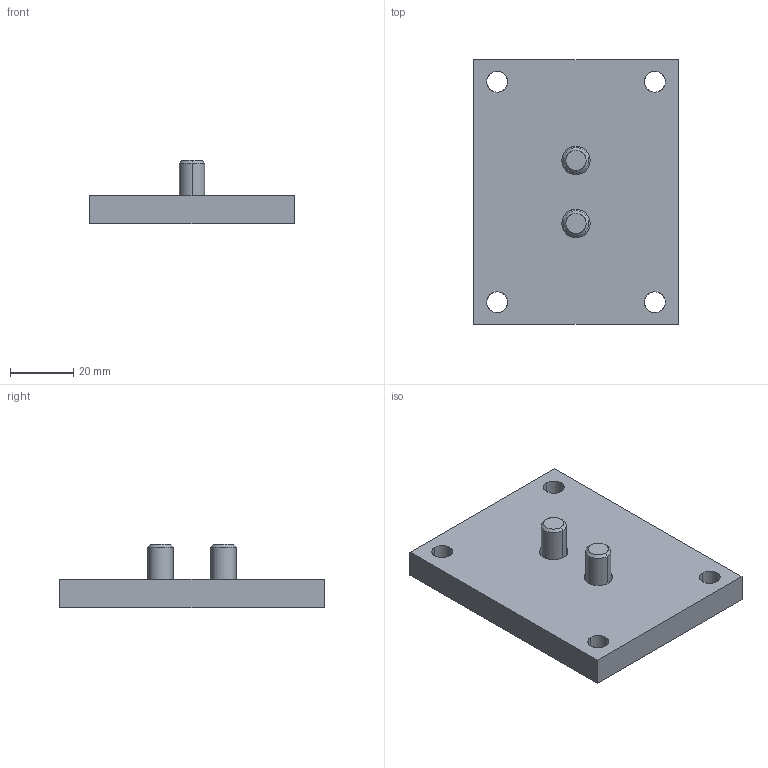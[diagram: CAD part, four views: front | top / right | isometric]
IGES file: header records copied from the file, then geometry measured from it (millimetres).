
Global section: file name: E:\UnigraphicsGraphicData\MISUMI_PRESS-PARTS\IGES\3d_hm-63_04131_r00.igs; native system: NX V5.0; preprocessor: UGS NX IGES V5.0; author: MISUMI; date: 20110105.161017; units: millimetre
Bounding box: 65 x 84 x 20 mm (x, y, z)
Surface area: 16056.2 mm2 (no closed solid volume)
Topology: 0 solids, 0 shells, 52 faces, 336 edges, 336 vertices
Faces by surface type: bspline 52
